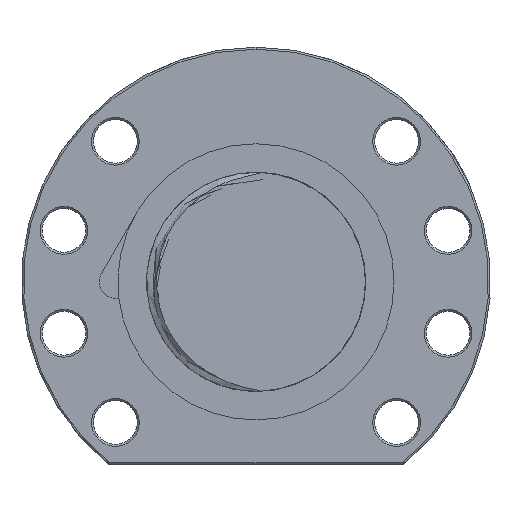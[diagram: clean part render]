
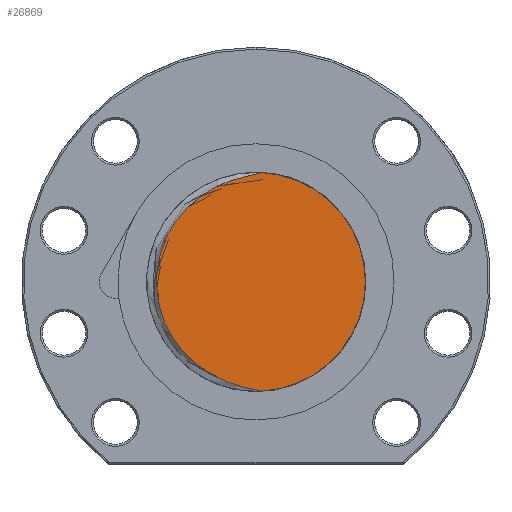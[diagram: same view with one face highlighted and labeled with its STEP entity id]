
A CAD part, left-side view. The second image highlights one B-rep face of the part: STEP entity #26869.
In plain terms, the highlighted planar face has unit normal (-1, 0, 0).
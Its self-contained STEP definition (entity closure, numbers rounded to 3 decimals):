
#15423 = CARTESIAN_POINT ( 'NONE',  ( -156., -1.514, -27.458 ) ) ;
#17247 = DIRECTION ( 'NONE',  ( 0., 1., 0. ) ) ;
#17249 = DIRECTION ( 'NONE',  ( 1., 0., 0. ) ) ;
#17251 = CARTESIAN_POINT ( 'NONE',  ( -156., 0., 0. ) ) ;
#17486 = CARTESIAN_POINT ( 'NONE',  ( -156., -1.5, 27.459 ) ) ;
#17522 = AXIS2_PLACEMENT_3D ( 'NONE', #17251, #17249, #17247 ) ;
#17696 = CIRCLE ( 'NONE', #17522, 27.5 ) ;
#24999 = FACE_OUTER_BOUND ( 'NONE', #26957, .T. ) ;
#25001 = DIRECTION ( 'NONE',  ( 0., 0., -1. ) ) ;
#25002 = DIRECTION ( 'NONE',  ( 1., 0., 0. ) ) ;
#25003 = AXIS2_PLACEMENT_3D ( 'NONE', #25037, #25002, #25001 ) ;
#25037 = CARTESIAN_POINT ( 'NONE',  ( -156., 0., 0. ) ) ;
#25038 = PLANE ( 'NONE',  #25003 ) ;
#25065 = CARTESIAN_POINT ( 'NONE',  ( -156., -1.514, -27.458 ) ) ;
#25066 = CARTESIAN_POINT ( 'NONE',  ( -156., -1.088, -27.352 ) ) ;
#25067 = CARTESIAN_POINT ( 'NONE',  ( -156., -0.658, -27.267 ) ) ;
#25068 = CARTESIAN_POINT ( 'NONE',  ( -156., 0.201, -27.096 ) ) ;
#25069 = CARTESIAN_POINT ( 'NONE',  ( -156., 0.632, -27.012 ) ) ;
#25070 = CARTESIAN_POINT ( 'NONE',  ( -156., 1.92, -26.748 ) ) ;
#25071 = CARTESIAN_POINT ( 'NONE',  ( -156., 2.775, -26.557 ) ) ;
#25072 = CARTESIAN_POINT ( 'NONE',  ( -156., 5.319, -25.889 ) ) ;
#25073 = CARTESIAN_POINT ( 'NONE',  ( -156., 6.973, -25.324 ) ) ;
#25074 = CARTESIAN_POINT ( 'NONE',  ( -156., 9.373, -24.262 ) ) ;
#25075 = CARTESIAN_POINT ( 'NONE',  ( -156., 10.161, -23.872 ) ) ;
#25076 = CARTESIAN_POINT ( 'NONE',  ( -156., 11.693, -23.027 ) ) ;
#25077 = CARTESIAN_POINT ( 'NONE',  ( -156., 12.438, -22.571 ) ) ;
#25078 = CARTESIAN_POINT ( 'NONE',  ( -156., 13.886, -21.591 ) ) ;
#25079 = CARTESIAN_POINT ( 'NONE',  ( -156., 14.591, -21.064 ) ) ;
#25080 = CARTESIAN_POINT ( 'NONE',  ( -156., 15.939, -19.954 ) ) ;
#25081 = CARTESIAN_POINT ( 'NONE',  ( -156., 16.581, -19.369 ) ) ;
#25082 = CARTESIAN_POINT ( 'NONE',  ( -156., 18.419, -17.531 ) ) ;
#25083 = CARTESIAN_POINT ( 'NONE',  ( -156., 19.524, -16.192 ) ) ;
#25084 = CARTESIAN_POINT ( 'NONE',  ( -156., 21.486, -13.28 ) ) ;
#25085 = CARTESIAN_POINT ( 'NONE',  ( -156., 22.312, -11.753 ) ) ;
#25086 = CARTESIAN_POINT ( 'NONE',  ( -156., 23.316, -9.357 ) ) ;
#25087 = CARTESIAN_POINT ( 'NONE',  ( -156., 23.611, -8.541 ) ) ;
#25088 = CARTESIAN_POINT ( 'NONE',  ( -156., 24.122, -6.871 ) ) ;
#25089 = CARTESIAN_POINT ( 'NONE',  ( -156., 24.337, -6.016 ) ) ;
#25090 = CARTESIAN_POINT ( 'NONE',  ( -156., 24.85, -3.454 ) ) ;
#25091 = CARTESIAN_POINT ( 'NONE',  ( -156., 25.022, -1.731 ) ) ;
#25092 = CARTESIAN_POINT ( 'NONE',  ( -156., 25.024, 0.442 ) ) ;
#25093 = CARTESIAN_POINT ( 'NONE',  ( -156., 25.013, 0.877 ) ) ;
#25094 = CARTESIAN_POINT ( 'NONE',  ( -156., 24.97, 1.75 ) ) ;
#25095 = CARTESIAN_POINT ( 'NONE',  ( -156., 24.937, 2.189 ) ) ;
#25096 = CARTESIAN_POINT ( 'NONE',  ( -156., 24.806, 3.496 ) ) ;
#25097 = CARTESIAN_POINT ( 'NONE',  ( -156., 24.674, 4.356 ) ) ;
#25098 = CARTESIAN_POINT ( 'NONE',  ( -156., 24.156, 6.903 ) ) ;
#25099 = CARTESIAN_POINT ( 'NONE',  ( -156., 23.646, 8.559 ) ) ;
#25100 = CARTESIAN_POINT ( 'NONE',  ( -156., 22.802, 10.576 ) ) ;
#25101 = CARTESIAN_POINT ( 'NONE',  ( -156., 22.622, 10.977 ) ) ;
#25102 = CARTESIAN_POINT ( 'NONE',  ( -156., 22.245, 11.766 ) ) ;
#25103 = CARTESIAN_POINT ( 'NONE',  ( -156., 22.047, 12.155 ) ) ;
#25104 = CARTESIAN_POINT ( 'NONE',  ( -156., 21.427, 13.302 ) ) ;
#25105 = CARTESIAN_POINT ( 'NONE',  ( -156., 20.979, 14.042 ) ) ;
#25106 = CARTESIAN_POINT ( 'NONE',  ( -156., 20.011, 15.474 ) ) ;
#25107 = CARTESIAN_POINT ( 'NONE',  ( -156., 19.492, 16.166 ) ) ;
#25108 = CARTESIAN_POINT ( 'NONE',  ( -156., 18.386, 17.504 ) ) ;
#25109 = CARTESIAN_POINT ( 'NONE',  ( -156., 17.797, 18.15 ) ) ;
#25110 = CARTESIAN_POINT ( 'NONE',  ( -156., 15.935, 20.007 ) ) ;
#25111 = CARTESIAN_POINT ( 'NONE',  ( -156., 14.593, 21.113 ) ) ;
#25112 = CARTESIAN_POINT ( 'NONE',  ( -156., 12.432, 22.579 ) ) ;
#25113 = CARTESIAN_POINT ( 'NONE',  ( -156., 11.685, 23.037 ) ) ;
#25114 = CARTESIAN_POINT ( 'NONE',  ( -156., 10.15, 23.882 ) ) ;
#25115 = CARTESIAN_POINT ( 'NONE',  ( -156., 9.367, 24.267 ) ) ;
#25116 = CARTESIAN_POINT ( 'NONE',  ( -156., 7.773, 24.969 ) ) ;
#25117 = CARTESIAN_POINT ( 'NONE',  ( -156., 6.962, 25.285 ) ) ;
#25118 = CARTESIAN_POINT ( 'NONE',  ( -156., 5.314, 25.854 ) ) ;
#25119 = CARTESIAN_POINT ( 'NONE',  ( -156., 4.476, 26.106 ) ) ;
#25120 = CARTESIAN_POINT ( 'NONE',  ( -156., 2.782, 26.554 ) ) ;
#25121 = CARTESIAN_POINT ( 'NONE',  ( -156., 1.928, 26.747 ) ) ;
#25122 = CARTESIAN_POINT ( 'NONE',  ( -156., 0.642, 27.013 ) ) ;
#25123 = CARTESIAN_POINT ( 'NONE',  ( -156., 0.212, 27.097 ) ) ;
#25124 = CARTESIAN_POINT ( 'NONE',  ( -156., -0.646, 27.269 ) ) ;
#25125 = CARTESIAN_POINT ( 'NONE',  ( -156., -1.076, 27.354 ) ) ;
#25126 = CARTESIAN_POINT ( 'NONE',  ( -156., -1.5, 27.459 ) ) ;
#25127 = B_SPLINE_CURVE_WITH_KNOTS ( 'NONE', 3,
 ( #25126, #25125, #25124, #25123, #25122, #25121, #25120, #25119, #25118, #25117, #25116, #25115, #25114, #25113, #25112, #25111, #25110, #25109, #25108, #25107, #25106, #25105, #25104, #25103, #25102, #25101, #25100, #25099, #25098, #25097, #25096, #25095, #25094, #25093, #25092, #25091, #25090, #25089, #25088, #25087, #25086, #25085, #25084, #25083, #25082, #25081, #25080, #25079, #25078, #25077, #25076, #25075, #25074, #25073, #25072, #25071, #25070, #25069, #25068, #25067, #25066, #25065 ),
 .UNSPECIFIED., .F., .F.,
 ( 4, 2, 2, 2, 2, 2, 2, 2, 2, 2, 2, 2, 2, 2, 2, 2, 2, 2, 2, 2, 2, 2, 2, 2, 2, 2, 2, 2, 2, 2, 4 ),
 ( 0.001, 0.002, 0.004, 0.006, 0.009, 0.012, 0.014, 0.017, 0.022, 0.025, 0.027, 0.03, 0.031, 0.032, 0.038, 0.04, 0.042, 0.043, 0.048, 0.051, 0.053, 0.059, 0.064, 0.066, 0.069, 0.072, 0.074, 0.079, 0.082, 0.083, 0.085 ),
 .UNSPECIFIED. ) ;
#26869 = ADVANCED_FACE ( 'NONE', ( #24999 ), #25038, .F. ) ;
#26870 = ORIENTED_EDGE ( 'NONE', *, *, #26994, .F. ) ;
#26871 = ORIENTED_EDGE ( 'NONE', *, *, #26872, .T. ) ;
#26872 = EDGE_CURVE ( 'NONE', #27009, #26974, #25127, .T. ) ;
#26957 = EDGE_LOOP ( 'NONE', ( #26870, #26871 ) ) ;
#26974 = VERTEX_POINT ( 'NONE', #15423 ) ;
#26994 = EDGE_CURVE ( 'NONE', #27009, #26974, #17696, .T. ) ;
#27009 = VERTEX_POINT ( 'NONE', #17486 ) ;
